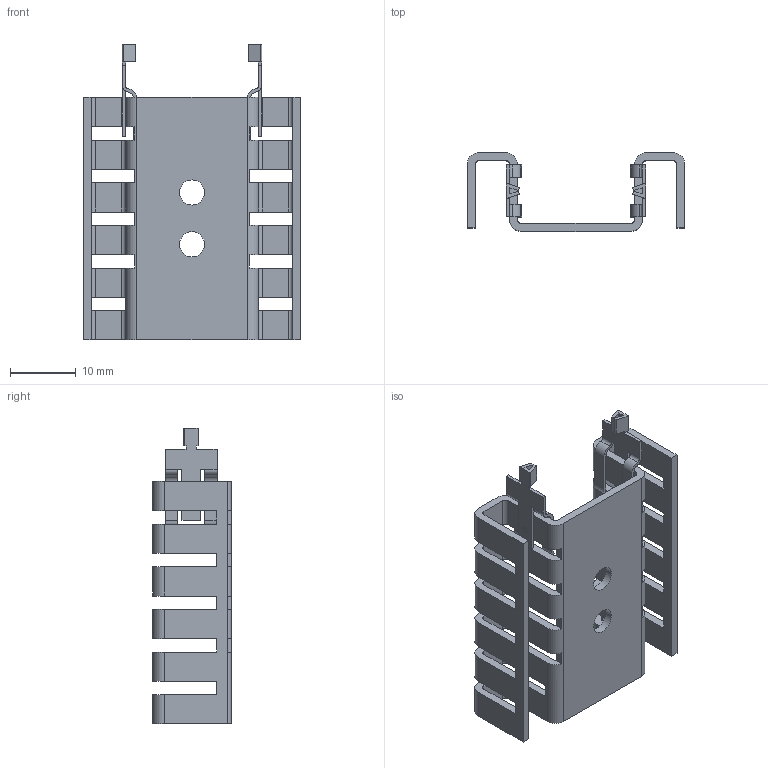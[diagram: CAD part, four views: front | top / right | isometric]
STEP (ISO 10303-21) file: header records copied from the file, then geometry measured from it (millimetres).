
FILE_DESCRIPTION (( 'STEP AP214' ), '1' );
FILE_NAME ('CUI_DEVICES_HSS03-B20-P318.step', '2021-12-18T19:31:27', ( '' ), ( '' ), 'SwSTEP 2.0', 'SolidWorks 2021', '' );
FILE_SCHEMA (( 'AUTOMOTIVE_DESIGN' ));
Length unit declared in the file: inch
Products named in the file (1): CUI_DEVICES_HSS03-B20-P318
Bounding box: 33.02 x 11.94 x 44.84 mm (x, y, z)
Volume: 2630.5 mm3; surface area: 5646.8 mm2
Topology: 3 solids, 3 shells, 248 faces, 766 edges, 508 vertices
Faces by surface type: plane 156, cylinder 88, sphere 4
Entity records: 8670 total; most frequent: ORIENTED_EDGE 1532, CARTESIAN_POINT 1523, DIRECTION 1478, EDGE_CURVE 766, LINE 552, VECTOR 552, VERTEX_POINT 508, AXIS2_PLACEMENT_3D 463
